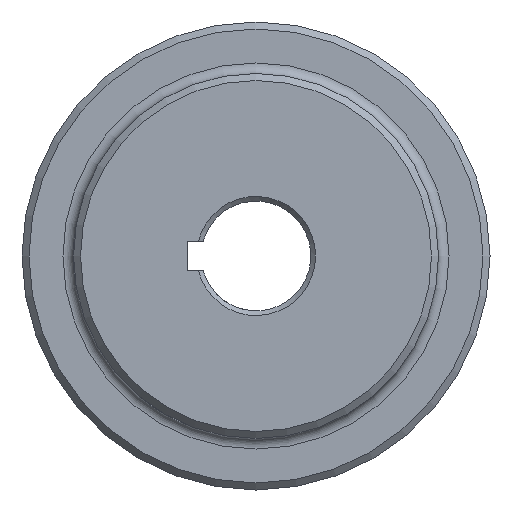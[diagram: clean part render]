
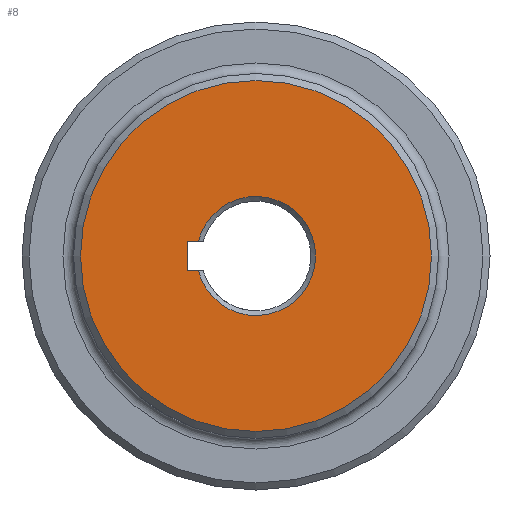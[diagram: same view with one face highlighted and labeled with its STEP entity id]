
A CAD part, left-side view. The second image highlights one B-rep face of the part: STEP entity #8.
In plain terms, the highlighted planar face has unit normal (-1, 0, 0).
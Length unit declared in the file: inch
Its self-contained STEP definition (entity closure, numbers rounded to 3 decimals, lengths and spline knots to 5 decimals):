
#2 = CARTESIAN_POINT ( 'NONE',  ( 0., 0.49331, -0.125 ) ) ;
#8 = ADVANCED_FACE ( 'NONE', ( #1786, #778 ), #1001, .F. ) ;
#51 = CARTESIAN_POINT ( 'NONE',  ( 0., 0.49331, 0.125 ) ) ;
#150 = LINE ( 'NONE', #1169, #2017 ) ;
#162 = LINE ( 'NONE', #784, #2030 ) ;
#259 = VERTEX_POINT ( 'NONE', #2 ) ;
#274 = CARTESIAN_POINT ( 'NONE',  ( 0., 0., -1.5 ) ) ;
#318 = CIRCLE ( 'NONE', #1665, 1.5 ) ;
#342 = CARTESIAN_POINT ( 'NONE',  ( 0., 0., 0. ) ) ;
#384 = CARTESIAN_POINT ( 'NONE',  ( 0., 0., 0. ) ) ;
#419 = AXIS2_PLACEMENT_3D ( 'NONE', #342, #1111, #1284 ) ;
#468 = ORIENTED_EDGE ( 'NONE', *, *, #959, .T. ) ;
#518 = CARTESIAN_POINT ( 'NONE',  ( 0., 0.5831, 0.125 ) ) ;
#538 = DIRECTION ( 'NONE',  ( 0., 0., -1. ) ) ;
#617 = EDGE_CURVE ( 'NONE', #1709, #1854, #1234, .T. ) ;
#627 = DIRECTION ( 'NONE',  ( 0., 0., -1. ) ) ;
#778 = FACE_BOUND ( 'NONE', #1892, .T. ) ;
#784 = CARTESIAN_POINT ( 'NONE',  ( 0., 0., -0.125 ) ) ;
#895 = EDGE_CURVE ( 'NONE', #1709, #259, #1636, .T. ) ;
#898 = DIRECTION ( 'NONE',  ( 1., 0., 0. ) ) ;
#908 = DIRECTION ( 'NONE',  ( 0., 1., 0. ) ) ;
#940 = EDGE_CURVE ( 'NONE', #1779, #259, #162, .T. ) ;
#959 = EDGE_CURVE ( 'NONE', #1327, #1327, #318, .T. ) ;
#1001 = PLANE ( 'NONE',  #419 ) ;
#1111 = DIRECTION ( 'NONE',  ( 1., 0., 0. ) ) ;
#1112 = CARTESIAN_POINT ( 'NONE',  ( 0., 0.5831, -0.125 ) ) ;
#1113 = DIRECTION ( 'NONE',  ( 0., -1., 0. ) ) ;
#1114 = DIRECTION ( 'NONE',  ( -1., 0., 0. ) ) ;
#1169 = CARTESIAN_POINT ( 'NONE',  ( 0., 0.5831, -0.125 ) ) ;
#1211 = ORIENTED_EDGE ( 'NONE', *, *, #617, .F. ) ;
#1234 = LINE ( 'NONE', #1879, #1948 ) ;
#1284 = DIRECTION ( 'NONE',  ( 0., 0., -1. ) ) ;
#1327 = VERTEX_POINT ( 'NONE', #274 ) ;
#1359 = EDGE_LOOP ( 'NONE', ( #468 ) ) ;
#1616 = CARTESIAN_POINT ( 'NONE',  ( 0., 0., 0. ) ) ;
#1636 = CIRCLE ( 'NONE', #1972, 0.5089 ) ;
#1665 = AXIS2_PLACEMENT_3D ( 'NONE', #1616, #1114, #627 ) ;
#1709 = VERTEX_POINT ( 'NONE', #51 ) ;
#1779 = VERTEX_POINT ( 'NONE', #1112 ) ;
#1786 = FACE_OUTER_BOUND ( 'NONE', #1359, .T. ) ;
#1830 = DIRECTION ( 'NONE',  ( 0., 0., -1. ) ) ;
#1854 = VERTEX_POINT ( 'NONE', #518 ) ;
#1879 = CARTESIAN_POINT ( 'NONE',  ( 0., 0., 0.125 ) ) ;
#1885 = ORIENTED_EDGE ( 'NONE', *, *, #2087, .F. ) ;
#1892 = EDGE_LOOP ( 'NONE', ( #1211, #2233, #2167, #1885 ) ) ;
#1948 = VECTOR ( 'NONE', #908, 39.37008 ) ;
#1972 = AXIS2_PLACEMENT_3D ( 'NONE', #384, #898, #1830 ) ;
#2017 = VECTOR ( 'NONE', #538, 39.37008 ) ;
#2030 = VECTOR ( 'NONE', #1113, 39.37008 ) ;
#2087 = EDGE_CURVE ( 'NONE', #1854, #1779, #150, .T. ) ;
#2167 = ORIENTED_EDGE ( 'NONE', *, *, #940, .F. ) ;
#2233 = ORIENTED_EDGE ( 'NONE', *, *, #895, .T. ) ;
